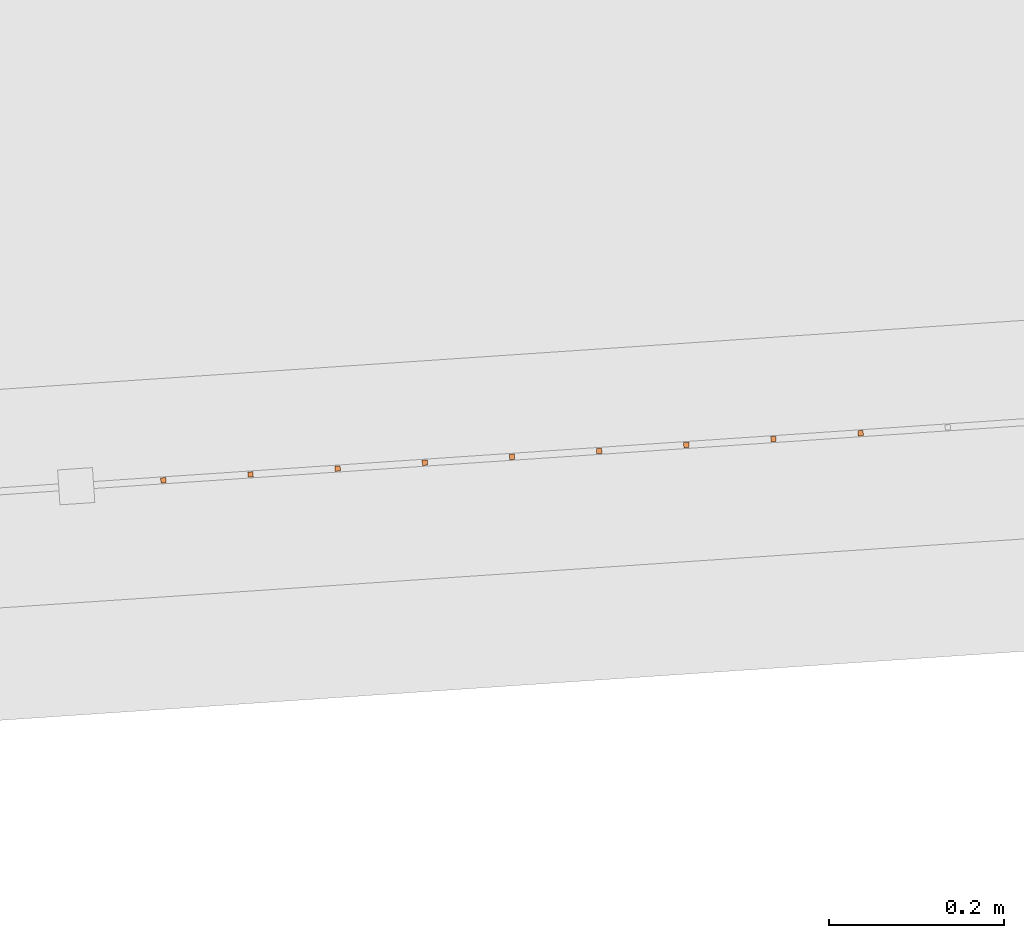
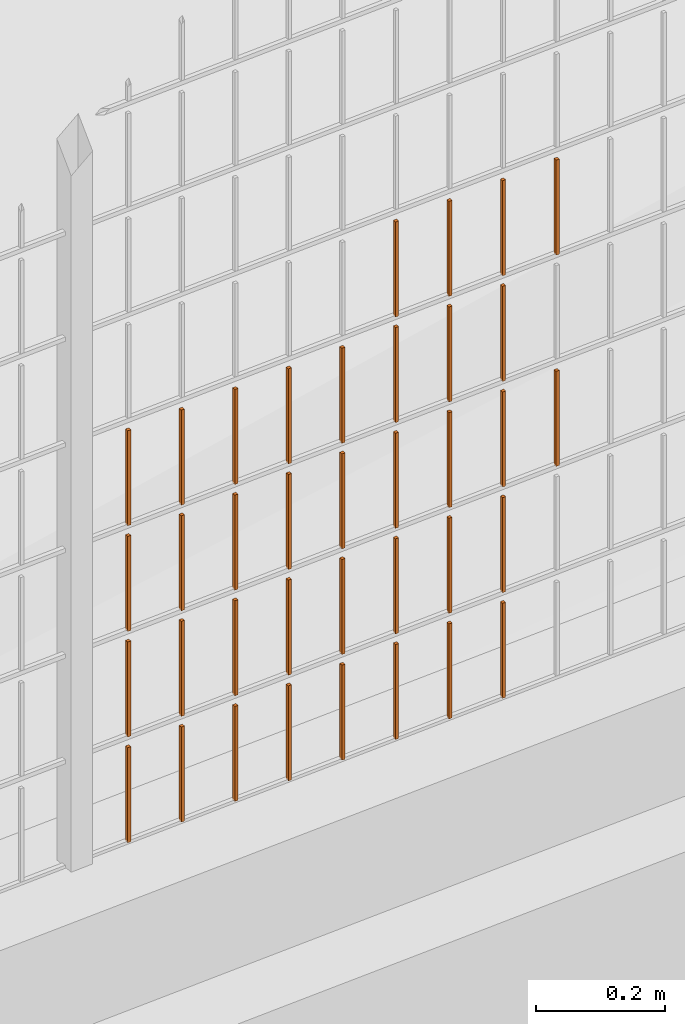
# One storey, part 83 of 1809: 37 proxies, 1 element without a shape of its own.
"""IFC2X3 building model written with IfcOpenShell, lengths in millimetres."""

from ifc_helpers import new_model, entity, si_unit, converted_unit, derived_unit, money_unit, direction, frame, origin_with_axes, place, context, subcontext, project, spatial, faceted_brep, source, transform, mapped, material, type_object, element, aggregate, save


model = new_model("IFC2X3")

# Units and contexts
model_context = context("Model", 3, precision=0.01, world=origin_with_axes(), true_north=direction((0.0, 1.0)))
body_context = subcontext(model_context, "Body", "Model", "MODEL_VIEW")
ifc_project = project(units=[si_unit("LENGTHUNIT", "METRE", prefix="MILLI"), si_unit("AREAUNIT", "SQUARE_METRE"), si_unit("VOLUMEUNIT", "CUBIC_METRE"), converted_unit("PLANEANGLEUNIT", "DEGREE", entity("IfcPlaneAngleMeasure", 0.0174532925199), si_unit("PLANEANGLEUNIT", "RADIAN"), dimensions=[0, 0, 0, 0, 0, 0, 0]), si_unit("SOLIDANGLEUNIT", "STERADIAN"), money_unit("EUR"), converted_unit("TIMEUNIT", "Year", entity("IfcTimeMeasure", 31556926.0), si_unit("TIMEUNIT", "SECOND"), dimensions=[0, 0, 1, 0, 0, 0, 0]), si_unit("MASSUNIT", "GRAM", prefix="KILO"), si_unit("THERMODYNAMICTEMPERATUREUNIT", "DEGREE_CELSIUS"), si_unit("LUMINOUSINTENSITYUNIT", "LUMEN"), si_unit("ENERGYUNIT", "JOULE", prefix="MEGA"), derived_unit("THERMALCONDUCTANCEUNIT", [(si_unit("POWERUNIT", "WATT"), 1), (si_unit("LENGTHUNIT", "METRE"), -1), (si_unit("THERMODYNAMICTEMPERATUREUNIT", "KELVIN"), -1)]), derived_unit("SPECIFICHEATCAPACITYUNIT", [(si_unit("ENERGYUNIT", "JOULE"), 1), (si_unit("MASSUNIT", "GRAM", prefix="KILO"), -1), (si_unit("THERMODYNAMICTEMPERATUREUNIT", "KELVIN"), -1)]), derived_unit("MASSDENSITYUNIT", [(si_unit("MASSUNIT", "GRAM", prefix="KILO"), 1), (si_unit("VOLUMEUNIT", "CUBIC_METRE"), -1)])], contexts=[model_context])

# Site, building, storey
site_placement = place(None, origin_with_axes())
site = spatial("IfcSite", under=ifc_project, at=site_placement, Name="Politse- ja Piirivalveameti ning Päästeameti ühishoone", CompositionType="ELEMENT")
building_placement = place(site_placement, origin_with_axes())
building = spatial("IfcBuilding", under=site, at=building_placement, Name="Politse- ja Piirivalveameti ning Päästeameti ühishoone", CompositionType="ELEMENT")
storey_placement = place(building_placement, origin_with_axes())
storey = spatial("IfcBuildingStorey", under=building, at=storey_placement, Name="Esimene korrus", CompositionType="ELEMENT", Elevation=0.0)

# Proxies
building_element_proxy_type_1 = type_object("IfcBuildingElementProxyType", Name="Railing Type", PredefinedType="NOTDEFINED")
proxy_1_placement = place(storey_placement, frame((89252.001212, -29183.4766571, 203.661247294), z_axis=(0.0, 0.0, 1.0), x_axis=(1.0, 0.0, 0.0)))
proxy_1 = element("IfcBuildingElementProxy", 1, at=proxy_1_placement, inside=storey, type_object=building_element_proxy_type_1, Name="PIIRDEAED")
ifc_material = material(Name="ET-03_Raud")
building_element_proxy_type_2 = type_object("IfcBuildingElementProxyType", Name="IfcBuildingElementProxy", PredefinedType="NOTDEFINED")
shared_shape_1 = source(origin_with_axes(), body_context, "Body", "Brep", [
    faceted_brep([(3.0, 3.0, -0.000752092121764), (-3.0, 3.0, -0.000752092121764), (-3.0, 3.0, 179.99926046), (3.0, 3.0, 179.99926046), (3.0, -3.0, 0.000752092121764), (-3.0, -3.0, 0.000752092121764), (-3.0, -3.0, 180.000764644), (3.0, -3.0, 180.000764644)], [[[0, 1, 2, 3]], [[0, 4, 5, 1]], [[1, 5, 6, 2]], [[3, 2, 6, 7]], [[4, 0, 3, 7]], [[5, 4, 7, 6]]]),
])
proxy_2_placement = place(proxy_1_placement, frame((-101395.642767, -24146.6677772, 801.756841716), z_axis=(0.0, 0.0, 1.0), x_axis=(1.0, 0.0, 0.0)))
proxy_2 = element("IfcBuildingElementProxy", 2, at=proxy_2_placement, type_object=building_element_proxy_type_2, material=ifc_material, Name="BALUSTER - 001", context=body_context, shape_type="MappedRepresentation", body=[
    mapped(shared_shape_1, transform((0.0, 0.0, 0.0), x_axis=(-0.0673926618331, 0.997726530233, 0.0), y_axis=(-0.997726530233, -0.0673926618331, 0.0), z_axis=(0.0, 0.0, 1.0))),
])
shared_shape_2 = source(origin_with_axes(), body_context, "Body", "Brep", [
    faceted_brep([(3.0, 3.0, -0.000752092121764), (-3.0, 3.0, -0.000752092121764), (-3.0, 3.0, 179.99926046), (3.0, 3.0, 179.99926046), (3.0, -3.0, 0.000752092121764), (-3.0, -3.0, 0.000752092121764), (-3.0, -3.0, 180.000764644), (3.0, -3.0, 180.000764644)], [[[0, 1, 2, 3]], [[0, 4, 5, 1]], [[1, 5, 6, 2]], [[3, 2, 6, 7]], [[4, 0, 3, 7]], [[5, 4, 7, 6]]]),
])
proxy_3_placement = place(proxy_1_placement, frame((-101694.960726, -24166.8855757, 201.681632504), z_axis=(0.0, 0.0, 1.0), x_axis=(1.0, 0.0, 0.0)))
proxy_3 = element("IfcBuildingElementProxy", 3, at=proxy_3_placement, type_object=building_element_proxy_type_2, material=ifc_material, Name="BALUSTER - 001", context=body_context, shape_type="MappedRepresentation", body=[
    mapped(shared_shape_2, transform((0.0, 0.0, 0.0), x_axis=(-0.0673926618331, 0.997726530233, 0.0), y_axis=(-0.997726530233, -0.0673926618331, 0.0), z_axis=(0.0, 0.0, 1.0))),
])
shared_shape_3 = source(origin_with_axes(), body_context, "Body", "Brep", [
    faceted_brep([(3.0, 3.0, -0.000752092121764), (-3.0, 3.0, -0.000752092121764), (-3.0, 3.0, 179.99926046), (3.0, 3.0, 179.99926046), (3.0, -3.0, 0.000752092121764), (-3.0, -3.0, 0.000752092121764), (-3.0, -3.0, 180.000764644), (3.0, -3.0, 180.000764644)], [[[0, 1, 2, 3]], [[0, 4, 5, 1]], [[1, 5, 6, 2]], [[3, 2, 6, 7]], [[4, 0, 3, 7]], [[5, 4, 7, 6]]]),
])
proxy_4_placement = place(proxy_1_placement, frame((-101395.642767, -24146.6677772, 201.756841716), z_axis=(0.0, 0.0, 1.0), x_axis=(1.0, 0.0, 0.0)))
proxy_4 = element("IfcBuildingElementProxy", 4, at=proxy_4_placement, type_object=building_element_proxy_type_2, material=ifc_material, Name="BALUSTER - 001", context=body_context, shape_type="MappedRepresentation", body=[
    mapped(shared_shape_3, transform((0.0, 0.0, 0.0), x_axis=(-0.0673926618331, 0.997726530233, 0.0), y_axis=(-0.997726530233, -0.0673926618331, 0.0), z_axis=(0.0, 0.0, 1.0))),
])
proxy_5_placement = place(proxy_1_placement, frame((-101994.278685, -24187.1033743, 201.606423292), z_axis=(0.0, 0.0, 1.0), x_axis=(1.0, 0.0, 0.0)))
proxy_5 = element("IfcBuildingElementProxy", 5, at=proxy_5_placement, type_object=building_element_proxy_type_2, material=ifc_material, Name="BALUSTER - 001", context=body_context, shape_type="MappedRepresentation", body=[
    mapped(shared_shape_3, transform((0.0, 0.0, 0.0), x_axis=(-0.0673926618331, 0.997726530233, 0.0), y_axis=(-0.997726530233, -0.0673926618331, 0.0), z_axis=(0.0, 0.0, 1.0))),
])
proxy_6_placement = place(proxy_1_placement, frame((-101595.188073, -24160.1463095, 401.706702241), z_axis=(0.0, 0.0, 1.0), x_axis=(1.0, 0.0, 0.0)))
proxy_6 = element("IfcBuildingElementProxy", 6, at=proxy_6_placement, type_object=building_element_proxy_type_2, material=ifc_material, Name="BALUSTER - 001", context=body_context, shape_type="MappedRepresentation", body=[
    mapped(shared_shape_3, transform((0.0, 0.0, 0.0), x_axis=(-0.0673926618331, 0.997726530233, 0.0), y_axis=(-0.997726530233, -0.0673926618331, 0.0), z_axis=(0.0, 0.0, 1.0))),
])
proxy_7_placement = place(proxy_1_placement, frame((-101694.960726, -24166.8855757, 401.681632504), z_axis=(0.0, 0.0, 1.0), x_axis=(1.0, 0.0, 0.0)))
proxy_7 = element("IfcBuildingElementProxy", 7, at=proxy_7_placement, type_object=building_element_proxy_type_2, material=ifc_material, Name="BALUSTER - 001", context=body_context, shape_type="MappedRepresentation", body=[
    mapped(shared_shape_3, transform((0.0, 0.0, 0.0), x_axis=(-0.0673926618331, 0.997726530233, 0.0), y_axis=(-0.997726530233, -0.0673926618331, 0.0), z_axis=(0.0, 0.0, 1.0))),
])
proxy_8_placement = place(proxy_1_placement, frame((-101994.278685, -24187.1033743, 401.606423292), z_axis=(0.0, 0.0, 1.0), x_axis=(1.0, 0.0, 0.0)))
proxy_8 = element("IfcBuildingElementProxy", 8, at=proxy_8_placement, type_object=building_element_proxy_type_2, material=ifc_material, Name="BALUSTER - 001", context=body_context, shape_type="MappedRepresentation", body=[
    mapped(shared_shape_3, transform((0.0, 0.0, 0.0), x_axis=(-0.0673926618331, 0.997726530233, 0.0), y_axis=(-0.997726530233, -0.0673926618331, 0.0), z_axis=(0.0, 0.0, 1.0))),
])
proxy_9_placement = place(proxy_1_placement, frame((-101395.642767, -24146.6677772, 601.756841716), z_axis=(0.0, 0.0, 1.0), x_axis=(1.0, 0.0, 0.0)))
proxy_9 = element("IfcBuildingElementProxy", 9, at=proxy_9_placement, type_object=building_element_proxy_type_2, material=ifc_material, Name="BALUSTER - 001", context=body_context, shape_type="MappedRepresentation", body=[
    mapped(shared_shape_3, transform((0.0, 0.0, 0.0), x_axis=(-0.0673926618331, 0.997726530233, 0.0), y_axis=(-0.997726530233, -0.0673926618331, 0.0), z_axis=(0.0, 0.0, 1.0))),
])
proxy_10_placement = place(proxy_1_placement, frame((-101595.188073, -24160.1463095, 601.706702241), z_axis=(0.0, 0.0, 1.0), x_axis=(1.0, 0.0, 0.0)))
proxy_10 = element("IfcBuildingElementProxy", 10, at=proxy_10_placement, type_object=building_element_proxy_type_2, material=ifc_material, Name="BALUSTER - 001", context=body_context, shape_type="MappedRepresentation", body=[
    mapped(shared_shape_3, transform((0.0, 0.0, 0.0), x_axis=(-0.0673926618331, 0.997726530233, 0.0), y_axis=(-0.997726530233, -0.0673926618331, 0.0), z_axis=(0.0, 0.0, 1.0))),
])
proxy_11_placement = place(proxy_1_placement, frame((-101694.960726, -24166.8855757, 601.681632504), z_axis=(0.0, 0.0, 1.0), x_axis=(1.0, 0.0, 0.0)))
proxy_11 = element("IfcBuildingElementProxy", 11, at=proxy_11_placement, type_object=building_element_proxy_type_2, material=ifc_material, Name="BALUSTER - 001", context=body_context, shape_type="MappedRepresentation", body=[
    mapped(shared_shape_3, transform((0.0, 0.0, 0.0), x_axis=(-0.0673926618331, 0.997726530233, 0.0), y_axis=(-0.997726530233, -0.0673926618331, 0.0), z_axis=(0.0, 0.0, 1.0))),
])
proxy_12_placement = place(proxy_1_placement, frame((-101994.278685, -24187.1033743, 601.606423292), z_axis=(0.0, 0.0, 1.0), x_axis=(1.0, 0.0, 0.0)))
proxy_12 = element("IfcBuildingElementProxy", 12, at=proxy_12_placement, type_object=building_element_proxy_type_2, material=ifc_material, Name="BALUSTER - 001", context=body_context, shape_type="MappedRepresentation", body=[
    mapped(shared_shape_3, transform((0.0, 0.0, 0.0), x_axis=(-0.0673926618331, 0.997726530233, 0.0), y_axis=(-0.997726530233, -0.0673926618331, 0.0), z_axis=(0.0, 0.0, 1.0))),
])
shared_shape_4 = source(origin_with_axes(), body_context, "Body", "Brep", [
    faceted_brep([(3.0, 3.0, -0.000752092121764), (-3.0, 3.0, -0.000752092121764), (-3.0, 3.0, 179.99926046), (3.0, 3.0, 179.99926046), (3.0, -3.0, 0.000752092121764), (-3.0, -3.0, 0.000752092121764), (-3.0, -3.0, 180.000764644), (3.0, -3.0, 180.000764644)], [[[0, 1, 2, 3]], [[0, 4, 5, 1]], [[1, 5, 6, 2]], [[3, 2, 6, 7]], [[4, 0, 3, 7]], [[5, 4, 7, 6]]]),
])
proxy_13_placement = place(proxy_1_placement, frame((-101694.960726, -24166.8855757, 1.68163250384), z_axis=(0.0, 0.0, 1.0), x_axis=(1.0, 0.0, 0.0)))
proxy_13 = element("IfcBuildingElementProxy", 13, at=proxy_13_placement, type_object=building_element_proxy_type_2, material=ifc_material, Name="BALUSTER - 001", context=body_context, shape_type="MappedRepresentation", body=[
    mapped(shared_shape_4, transform((0.0, 0.0, 0.0), x_axis=(-0.0673926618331, 0.997726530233, 0.0), y_axis=(-0.997726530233, -0.0673926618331, 0.0), z_axis=(0.0, 0.0, 1.0))),
])
proxy_14_placement = place(proxy_1_placement, frame((-101994.278685, -24187.1033743, 1.60642329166), z_axis=(0.0, 0.0, 1.0), x_axis=(1.0, 0.0, 0.0)))
proxy_14 = element("IfcBuildingElementProxy", 14, at=proxy_14_placement, type_object=building_element_proxy_type_2, material=ifc_material, Name="BALUSTER - 001", context=body_context, shape_type="MappedRepresentation", body=[
    mapped(shared_shape_4, transform((0.0, 0.0, 0.0), x_axis=(-0.0673926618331, 0.997726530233, 0.0), y_axis=(-0.997726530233, -0.0673926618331, 0.0), z_axis=(0.0, 0.0, 1.0))),
])
shared_shape_5 = source(origin_with_axes(), body_context, "Body", "Brep", [
    faceted_brep([(3.0, 3.0, -0.000752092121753), (-3.0, 3.0, -0.000752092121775), (-3.0, 3.0, 179.99926046), (3.0, 3.0, 179.99926046), (3.0, -3.0, 0.000752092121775), (-3.0, -3.0, 0.000752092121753), (-3.0, -3.0, 180.000764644), (3.0, -3.0, 180.000764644)], [[[0, 1, 2, 3]], [[0, 4, 5, 1]], [[1, 5, 6, 2]], [[3, 2, 6, 7]], [[4, 0, 3, 7]], [[5, 4, 7, 6]]]),
])
proxy_15_placement = place(proxy_1_placement, frame((-101894.506032, -24180.3641081, 1.63149302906), z_axis=(0.0, 0.0, 1.0), x_axis=(1.0, 0.0, 0.0)))
proxy_15 = element("IfcBuildingElementProxy", 15, at=proxy_15_placement, type_object=building_element_proxy_type_2, material=ifc_material, Name="BALUSTER - 001", context=body_context, shape_type="MappedRepresentation", body=[
    mapped(shared_shape_5, transform((0.0, 0.0, 0.0), x_axis=(-0.0673926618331, 0.997726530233, 0.0), y_axis=(-0.997726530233, -0.0673926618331, 0.0), z_axis=(0.0, 0.0, 1.0))),
])
shared_shape_6 = source(origin_with_axes(), body_context, "Body", "Brep", [
    faceted_brep([(3.0, 3.0, -0.000752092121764), (-3.0, 3.0, -0.000752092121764), (-3.0, 3.0, 179.99926046), (3.0, 3.0, 179.99926046), (3.0, -3.0, 0.000752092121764), (-3.0, -3.0, 0.000752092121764), (-3.0, -3.0, 180.000764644), (3.0, -3.0, 180.000764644)], [[[0, 1, 2, 3]], [[0, 4, 5, 1]], [[1, 5, 6, 2]], [[3, 2, 6, 7]], [[4, 0, 3, 7]], [[5, 4, 7, 6]]]),
])
proxy_16_placement = place(proxy_1_placement, frame((-101295.870114, -24139.928511, 201.781911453), z_axis=(0.0, 0.0, 1.0), x_axis=(1.0, 0.0, 0.0)))
proxy_16 = element("IfcBuildingElementProxy", 16, at=proxy_16_placement, type_object=building_element_proxy_type_2, material=ifc_material, Name="BALUSTER - 001", context=body_context, shape_type="MappedRepresentation", body=[
    mapped(shared_shape_6, transform((0.0, 0.0, 0.0), x_axis=(-0.0673926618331, 0.997726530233, 0.0), y_axis=(-0.997726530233, -0.0673926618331, 0.0), z_axis=(0.0, 0.0, 1.0))),
])
shared_shape_7 = source(origin_with_axes(), body_context, "Body", "Brep", [
    faceted_brep([(3.0, 3.0, -0.000752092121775), (-3.0, 3.0, -0.000752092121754), (-3.0, 3.0, 179.99926046), (3.0, 3.0, 179.99926046), (3.0, -3.0, 0.000752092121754), (-3.0, -3.0, 0.000752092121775), (-3.0, -3.0, 180.000764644), (3.0, -3.0, 180.000764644)], [[[0, 1, 2, 3]], [[0, 4, 5, 1]], [[1, 5, 6, 2]], [[3, 2, 6, 7]], [[4, 0, 3, 7]], [[5, 4, 7, 6]]]),
])
proxy_17_placement = place(proxy_1_placement, frame((-101794.733379, -24173.6248419, 601.656562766), z_axis=(0.0, 0.0, 1.0), x_axis=(1.0, 0.0, 0.0)))
proxy_17 = element("IfcBuildingElementProxy", 17, at=proxy_17_placement, type_object=building_element_proxy_type_2, material=ifc_material, Name="BALUSTER - 001", context=body_context, shape_type="MappedRepresentation", body=[
    mapped(shared_shape_7, transform((0.0, 0.0, 0.0), x_axis=(-0.0673926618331, 0.997726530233, 0.0), y_axis=(-0.997726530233, -0.0673926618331, 0.0), z_axis=(0.0, 0.0, 1.0))),
])
shared_shape_8 = source(origin_with_axes(), body_context, "Body", "Brep", [
    faceted_brep([(3.0, 3.0, -0.000752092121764), (-3.0, 3.0, -0.000752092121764), (-3.0, 3.0, 179.99926046), (3.0, 3.0, 179.99926046), (3.0, -3.0, 0.000752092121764), (-3.0, -3.0, 0.000752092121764), (-3.0, -3.0, 180.000764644), (3.0, -3.0, 180.000764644)], [[[0, 1, 2, 3]], [[0, 4, 5, 1]], [[1, 5, 6, 2]], [[3, 2, 6, 7]], [[4, 0, 3, 7]], [[5, 4, 7, 6]]]),
])
proxy_18_placement = place(proxy_1_placement, frame((-101295.870114, -24139.928511, 401.781911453), z_axis=(0.0, 0.0, 1.0), x_axis=(1.0, 0.0, 0.0)))
proxy_18 = element("IfcBuildingElementProxy", 18, at=proxy_18_placement, type_object=building_element_proxy_type_2, material=ifc_material, Name="BALUSTER - 001", context=body_context, shape_type="MappedRepresentation", body=[
    mapped(shared_shape_8, transform((0.0, 0.0, 0.0), x_axis=(-0.0673926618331, 0.997726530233, 0.0), y_axis=(-0.997726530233, -0.0673926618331, 0.0), z_axis=(0.0, 0.0, 1.0))),
])
proxy_19_placement = place(proxy_1_placement, frame((-101295.870114, -24139.928511, 601.781911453), z_axis=(0.0, 0.0, 1.0), x_axis=(1.0, 0.0, 0.0)))
proxy_19 = element("IfcBuildingElementProxy", 19, at=proxy_19_placement, type_object=building_element_proxy_type_2, material=ifc_material, Name="BALUSTER - 001", context=body_context, shape_type="MappedRepresentation", body=[
    mapped(shared_shape_8, transform((0.0, 0.0, 0.0), x_axis=(-0.0673926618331, 0.997726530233, 0.0), y_axis=(-0.997726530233, -0.0673926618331, 0.0), z_axis=(0.0, 0.0, 1.0))),
])
shared_shape_9 = source(origin_with_axes(), body_context, "Body", "Brep", [
    faceted_brep([(3.0, 3.0, -0.000752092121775), (-3.0, 3.0, -0.000752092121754), (-3.0, 3.0, 179.99926046), (3.0, 3.0, 179.99926046), (3.0, -3.0, 0.000752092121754), (-3.0, -3.0, 0.000752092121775), (-3.0, -3.0, 180.000764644), (3.0, -3.0, 180.000764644)], [[[0, 1, 2, 3]], [[0, 4, 5, 1]], [[1, 5, 6, 2]], [[3, 2, 6, 7]], [[4, 0, 3, 7]], [[5, 4, 7, 6]]]),
])
proxy_20_placement = place(proxy_1_placement, frame((-101794.733379, -24173.6248419, 401.656562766), z_axis=(0.0, 0.0, 1.0), x_axis=(1.0, 0.0, 0.0)))
proxy_20 = element("IfcBuildingElementProxy", 20, at=proxy_20_placement, type_object=building_element_proxy_type_2, material=ifc_material, Name="BALUSTER - 001", context=body_context, shape_type="MappedRepresentation", body=[
    mapped(shared_shape_9, transform((0.0, 0.0, 0.0), x_axis=(-0.0673926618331, 0.997726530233, 0.0), y_axis=(-0.997726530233, -0.0673926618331, 0.0), z_axis=(0.0, 0.0, 1.0))),
])
shared_shape_10 = source(origin_with_axes(), body_context, "Body", "Brep", [
    faceted_brep([(3.0, 3.0, -0.000752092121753), (-3.0, 3.0, -0.000752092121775), (-3.0, 3.0, 179.99926046), (3.0, 3.0, 179.99926046), (3.0, -3.0, 0.000752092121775), (-3.0, -3.0, 0.000752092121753), (-3.0, -3.0, 180.000764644), (3.0, -3.0, 180.000764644)], [[[0, 1, 2, 3]], [[0, 4, 5, 1]], [[1, 5, 6, 2]], [[3, 2, 6, 7]], [[4, 0, 3, 7]], [[5, 4, 7, 6]]]),
])
proxy_21_placement = place(proxy_1_placement, frame((-101894.506032, -24180.3641081, 201.631493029), z_axis=(0.0, 0.0, 1.0), x_axis=(1.0, 0.0, 0.0)))
proxy_21 = element("IfcBuildingElementProxy", 21, at=proxy_21_placement, type_object=building_element_proxy_type_2, material=ifc_material, Name="BALUSTER - 001", context=body_context, shape_type="MappedRepresentation", body=[
    mapped(shared_shape_10, transform((0.0, 0.0, 0.0), x_axis=(-0.0673926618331, 0.997726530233, 0.0), y_axis=(-0.997726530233, -0.0673926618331, 0.0), z_axis=(0.0, 0.0, 1.0))),
])
shared_shape_11 = source(origin_with_axes(), body_context, "Body", "Brep", [
    faceted_brep([(3.0, 3.0, -0.000752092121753), (-3.0, 3.0, -0.000752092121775), (-3.0, 3.0, 179.99926046), (3.0, 3.0, 179.99926046), (3.0, -3.0, 0.000752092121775), (-3.0, -3.0, 0.000752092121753), (-3.0, -3.0, 180.000764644), (3.0, -3.0, 180.000764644)], [[[0, 1, 2, 3]], [[0, 4, 5, 1]], [[1, 5, 6, 2]], [[3, 2, 6, 7]], [[4, 0, 3, 7]], [[5, 4, 7, 6]]]),
])
proxy_22_placement = place(proxy_1_placement, frame((-101894.506032, -24180.3641081, 401.631493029), z_axis=(0.0, 0.0, 1.0), x_axis=(1.0, 0.0, 0.0)))
proxy_22 = element("IfcBuildingElementProxy", 22, at=proxy_22_placement, type_object=building_element_proxy_type_2, material=ifc_material, Name="BALUSTER - 001", context=body_context, shape_type="MappedRepresentation", body=[
    mapped(shared_shape_11, transform((0.0, 0.0, 0.0), x_axis=(-0.0673926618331, 0.997726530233, 0.0), y_axis=(-0.997726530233, -0.0673926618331, 0.0), z_axis=(0.0, 0.0, 1.0))),
])
proxy_23_placement = place(proxy_1_placement, frame((-101894.506032, -24180.3641081, 601.631493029), z_axis=(0.0, 0.0, 1.0), x_axis=(1.0, 0.0, 0.0)))
proxy_23 = element("IfcBuildingElementProxy", 23, at=proxy_23_placement, type_object=building_element_proxy_type_2, material=ifc_material, Name="BALUSTER - 001", context=body_context, shape_type="MappedRepresentation", body=[
    mapped(shared_shape_11, transform((0.0, 0.0, 0.0), x_axis=(-0.0673926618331, 0.997726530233, 0.0), y_axis=(-0.997726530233, -0.0673926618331, 0.0), z_axis=(0.0, 0.0, 1.0))),
])
shared_shape_12 = source(origin_with_axes(), body_context, "Body", "Brep", [
    faceted_brep([(3.0, 3.0, -0.000752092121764), (-3.0, 3.0, -0.000752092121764), (-3.0, 3.0, 179.99926046), (3.0, 3.0, 179.99926046), (3.0, -3.0, 0.000752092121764), (-3.0, -3.0, 0.000752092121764), (-3.0, -3.0, 180.000764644), (3.0, -3.0, 180.000764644)], [[[0, 1, 2, 3]], [[0, 4, 5, 1]], [[1, 5, 6, 2]], [[3, 2, 6, 7]], [[4, 0, 3, 7]], [[5, 4, 7, 6]]]),
])
proxy_24_placement = place(proxy_1_placement, frame((-101295.870114, -24139.928511, 801.781911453), z_axis=(0.0, 0.0, 1.0), x_axis=(1.0, 0.0, 0.0)))
proxy_24 = element("IfcBuildingElementProxy", 24, at=proxy_24_placement, type_object=building_element_proxy_type_2, material=ifc_material, Name="BALUSTER - 001", context=body_context, shape_type="MappedRepresentation", body=[
    mapped(shared_shape_12, transform((0.0, 0.0, 0.0), x_axis=(-0.0673926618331, 0.997726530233, 0.0), y_axis=(-0.997726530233, -0.0673926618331, 0.0), z_axis=(0.0, 0.0, 1.0))),
])
shared_shape_13 = source(origin_with_axes(), body_context, "Body", "Brep", [
    faceted_brep([(3.0, 3.0, -0.000752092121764), (-3.0, 3.0, -0.000752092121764), (-3.0, 3.0, 179.99926046), (3.0, 3.0, 179.99926046), (3.0, -3.0, 0.000752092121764), (-3.0, -3.0, 0.000752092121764), (-3.0, -3.0, 180.000764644), (3.0, -3.0, 180.000764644)], [[[0, 1, 2, 3]], [[0, 4, 5, 1]], [[1, 5, 6, 2]], [[3, 2, 6, 7]], [[4, 0, 3, 7]], [[5, 4, 7, 6]]]),
])
proxy_25_placement = place(proxy_1_placement, frame((-101595.188073, -24160.1463095, 201.706702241), z_axis=(0.0, 0.0, 1.0), x_axis=(1.0, 0.0, 0.0)))
proxy_25 = element("IfcBuildingElementProxy", 25, at=proxy_25_placement, type_object=building_element_proxy_type_2, material=ifc_material, Name="BALUSTER - 001", context=body_context, shape_type="MappedRepresentation", body=[
    mapped(shared_shape_13, transform((0.0, 0.0, 0.0), x_axis=(-0.0673926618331, 0.997726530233, 0.0), y_axis=(-0.997726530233, -0.0673926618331, 0.0), z_axis=(0.0, 0.0, 1.0))),
])
proxy_26_placement = place(proxy_1_placement, frame((-101395.642767, -24146.6677772, 401.756841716), z_axis=(0.0, 0.0, 1.0), x_axis=(1.0, 0.0, 0.0)))
proxy_26 = element("IfcBuildingElementProxy", 26, at=proxy_26_placement, type_object=building_element_proxy_type_2, material=ifc_material, Name="BALUSTER - 001", context=body_context, shape_type="MappedRepresentation", body=[
    mapped(shared_shape_13, transform((0.0, 0.0, 0.0), x_axis=(-0.0673926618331, 0.997726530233, 0.0), y_axis=(-0.997726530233, -0.0673926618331, 0.0), z_axis=(0.0, 0.0, 1.0))),
])
shared_shape_14 = source(origin_with_axes(), body_context, "Body", "Brep", [
    faceted_brep([(3.0, 3.0, -0.000752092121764), (-3.0, 3.0, -0.000752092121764), (-3.0, 3.0, 179.99926046), (3.0, 3.0, 179.99926046), (3.0, -3.0, 0.000752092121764), (-3.0, -3.0, 0.000752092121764), (-3.0, -3.0, 180.000764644), (3.0, -3.0, 180.000764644)], [[[0, 1, 2, 3]], [[0, 4, 5, 1]], [[1, 5, 6, 2]], [[3, 2, 6, 7]], [[4, 0, 3, 7]], [[5, 4, 7, 6]]]),
])
proxy_27_placement = place(proxy_1_placement, frame((-101595.188073, -24160.1463095, 1.70670224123), z_axis=(0.0, 0.0, 1.0), x_axis=(1.0, 0.0, 0.0)))
proxy_27 = element("IfcBuildingElementProxy", 27, at=proxy_27_placement, type_object=building_element_proxy_type_2, material=ifc_material, Name="BALUSTER - 001", context=body_context, shape_type="MappedRepresentation", body=[
    mapped(shared_shape_14, transform((0.0, 0.0, 0.0), x_axis=(-0.0673926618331, 0.997726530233, 0.0), y_axis=(-0.997726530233, -0.0673926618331, 0.0), z_axis=(0.0, 0.0, 1.0))),
])
shared_shape_15 = source(origin_with_axes(), body_context, "Body", "Brep", [
    faceted_brep([(3.0, 3.0, -0.000752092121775), (-3.0, 3.0, -0.000752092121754), (-3.0, 3.0, 179.99926046), (3.0, 3.0, 179.99926046), (3.0, -3.0, 0.000752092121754), (-3.0, -3.0, 0.000752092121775), (-3.0, -3.0, 180.000764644), (3.0, -3.0, 180.000764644)], [[[0, 1, 2, 3]], [[0, 4, 5, 1]], [[1, 5, 6, 2]], [[3, 2, 6, 7]], [[4, 0, 3, 7]], [[5, 4, 7, 6]]]),
])
proxy_28_placement = place(proxy_1_placement, frame((-101794.733379, -24173.6248419, 1.65656276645), z_axis=(0.0, 0.0, 1.0), x_axis=(1.0, 0.0, 0.0)))
proxy_28 = element("IfcBuildingElementProxy", 28, at=proxy_28_placement, type_object=building_element_proxy_type_2, material=ifc_material, Name="BALUSTER - 001", context=body_context, shape_type="MappedRepresentation", body=[
    mapped(shared_shape_15, transform((0.0, 0.0, 0.0), x_axis=(-0.0673926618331, 0.997726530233, 0.0), y_axis=(-0.997726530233, -0.0673926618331, 0.0), z_axis=(0.0, 0.0, 1.0))),
])
shared_shape_16 = source(origin_with_axes(), body_context, "Body", "Brep", [
    faceted_brep([(3.0, 3.0, -0.000752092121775), (-3.0, 3.0, -0.000752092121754), (-3.0, 3.0, 179.99926046), (3.0, 3.0, 179.99926046), (3.0, -3.0, 0.000752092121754), (-3.0, -3.0, 0.000752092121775), (-3.0, -3.0, 180.000764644), (3.0, -3.0, 180.000764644)], [[[0, 1, 2, 3]], [[0, 4, 5, 1]], [[1, 5, 6, 2]], [[3, 2, 6, 7]], [[4, 0, 3, 7]], [[5, 4, 7, 6]]]),
])
proxy_29_placement = place(proxy_1_placement, frame((-101794.733379, -24173.6248419, 201.656562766), z_axis=(0.0, 0.0, 1.0), x_axis=(1.0, 0.0, 0.0)))
proxy_29 = element("IfcBuildingElementProxy", 29, at=proxy_29_placement, type_object=building_element_proxy_type_2, material=ifc_material, Name="BALUSTER - 001", context=body_context, shape_type="MappedRepresentation", body=[
    mapped(shared_shape_16, transform((0.0, 0.0, 0.0), x_axis=(-0.0673926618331, 0.997726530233, 0.0), y_axis=(-0.997726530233, -0.0673926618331, 0.0), z_axis=(0.0, 0.0, 1.0))),
])
shared_shape_17 = source(origin_with_axes(), body_context, "Body", "Brep", [
    faceted_brep([(3.0, 3.0, -0.000752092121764), (-3.0, 3.0, -0.000752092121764), (-3.0, 3.0, 179.99926046), (3.0, 3.0, 179.99926046), (3.0, -3.0, 0.000752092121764), (-3.0, -3.0, 0.000752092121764), (-3.0, -3.0, 180.000764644), (3.0, -3.0, 180.000764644)], [[[0, 1, 2, 3]], [[0, 4, 5, 1]], [[1, 5, 6, 2]], [[3, 2, 6, 7]], [[4, 0, 3, 7]], [[5, 4, 7, 6]]]),
])
proxy_30_placement = place(proxy_1_placement, frame((-101495.41542, -24153.4070433, 601.731771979), z_axis=(0.0, 0.0, 1.0), x_axis=(1.0, 0.0, 0.0)))
proxy_30 = element("IfcBuildingElementProxy", 30, at=proxy_30_placement, type_object=building_element_proxy_type_2, material=ifc_material, Name="BALUSTER - 001", context=body_context, shape_type="MappedRepresentation", body=[
    mapped(shared_shape_17, transform((0.0, 0.0, 0.0), x_axis=(-0.0673926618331, 0.997726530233, 0.0), y_axis=(-0.997726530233, -0.0673926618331, 0.0), z_axis=(0.0, 0.0, 1.0))),
])
shared_shape_18 = source(origin_with_axes(), body_context, "Body", "Brep", [
    faceted_brep([(3.0, 3.0, -0.000752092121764), (-3.0, 3.0, -0.000752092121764), (-3.0, 3.0, 179.99926046), (3.0, 3.0, 179.99926046), (3.0, -3.0, 0.000752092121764), (-3.0, -3.0, 0.000752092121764), (-3.0, -3.0, 180.000764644), (3.0, -3.0, 180.000764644)], [[[0, 1, 2, 3]], [[0, 4, 5, 1]], [[1, 5, 6, 2]], [[3, 2, 6, 7]], [[4, 0, 3, 7]], [[5, 4, 7, 6]]]),
])
proxy_31_placement = place(proxy_1_placement, frame((-101495.41542, -24153.4070433, 201.731771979), z_axis=(0.0, 0.0, 1.0), x_axis=(1.0, 0.0, 0.0)))
proxy_31 = element("IfcBuildingElementProxy", 31, at=proxy_31_placement, type_object=building_element_proxy_type_2, material=ifc_material, Name="BALUSTER - 001", context=body_context, shape_type="MappedRepresentation", body=[
    mapped(shared_shape_18, transform((0.0, 0.0, 0.0), x_axis=(-0.0673926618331, 0.997726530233, 0.0), y_axis=(-0.997726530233, -0.0673926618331, 0.0), z_axis=(0.0, 0.0, 1.0))),
])
proxy_32_placement = place(proxy_1_placement, frame((-101495.41542, -24153.4070433, 401.731771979), z_axis=(0.0, 0.0, 1.0), x_axis=(1.0, 0.0, 0.0)))
proxy_32 = element("IfcBuildingElementProxy", 32, at=proxy_32_placement, type_object=building_element_proxy_type_2, material=ifc_material, Name="BALUSTER - 001", context=body_context, shape_type="MappedRepresentation", body=[
    mapped(shared_shape_18, transform((0.0, 0.0, 0.0), x_axis=(-0.0673926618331, 0.997726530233, 0.0), y_axis=(-0.997726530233, -0.0673926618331, 0.0), z_axis=(0.0, 0.0, 1.0))),
])
shared_shape_19 = source(origin_with_axes(), body_context, "Body", "Brep", [
    faceted_brep([(3.0, 3.0, -0.000752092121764), (-3.0, 3.0, -0.000752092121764), (-3.0, 3.0, 179.99926046), (3.0, 3.0, 179.99926046), (3.0, -3.0, 0.000752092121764), (-3.0, -3.0, 0.000752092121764), (-3.0, -3.0, 180.000764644), (3.0, -3.0, 180.000764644)], [[[0, 1, 2, 3]], [[0, 4, 5, 1]], [[1, 5, 6, 2]], [[3, 2, 6, 7]], [[4, 0, 3, 7]], [[5, 4, 7, 6]]]),
])
proxy_33_placement = place(proxy_1_placement, frame((-101495.41542, -24153.4070433, 801.731771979), z_axis=(0.0, 0.0, 1.0), x_axis=(1.0, 0.0, 0.0)))
proxy_33 = element("IfcBuildingElementProxy", 33, at=proxy_33_placement, type_object=building_element_proxy_type_2, material=ifc_material, Name="BALUSTER - 001", context=body_context, shape_type="MappedRepresentation", body=[
    mapped(shared_shape_19, transform((0.0, 0.0, 0.0), x_axis=(-0.0673926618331, 0.997726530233, 0.0), y_axis=(-0.997726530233, -0.0673926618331, 0.0), z_axis=(0.0, 0.0, 1.0))),
])
shared_shape_20 = source(origin_with_axes(), body_context, "Body", "Brep", [
    faceted_brep([(3.0, 3.0, -0.000752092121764), (-3.0, 3.0, -0.000752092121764), (-3.0, 3.0, 179.99926046), (3.0, 3.0, 179.99926046), (3.0, -3.0, 0.000752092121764), (-3.0, -3.0, 0.000752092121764), (-3.0, -3.0, 180.000764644), (3.0, -3.0, 180.000764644)], [[[0, 1, 2, 3]], [[0, 4, 5, 1]], [[1, 5, 6, 2]], [[3, 2, 6, 7]], [[4, 0, 3, 7]], [[5, 4, 7, 6]]]),
])
proxy_34_placement = place(proxy_1_placement, frame((-101395.642767, -24146.6677772, 1.75684171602), z_axis=(0.0, 0.0, 1.0), x_axis=(1.0, 0.0, 0.0)))
proxy_34 = element("IfcBuildingElementProxy", 34, at=proxy_34_placement, type_object=building_element_proxy_type_2, material=ifc_material, Name="BALUSTER - 001", context=body_context, shape_type="MappedRepresentation", body=[
    mapped(shared_shape_20, transform((0.0, 0.0, 0.0), x_axis=(-0.0673926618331, 0.997726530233, 0.0), y_axis=(-0.997726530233, -0.0673926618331, 0.0), z_axis=(0.0, 0.0, 1.0))),
])
shared_shape_21 = source(origin_with_axes(), body_context, "Body", "Brep", [
    faceted_brep([(3.0, 3.0, -0.000752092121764), (-3.0, 3.0, -0.000752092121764), (-3.0, 3.0, 179.99926046), (3.0, 3.0, 179.99926046), (3.0, -3.0, 0.000752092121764), (-3.0, -3.0, 0.000752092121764), (-3.0, -3.0, 180.000764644), (3.0, -3.0, 180.000764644)], [[[0, 1, 2, 3]], [[0, 4, 5, 1]], [[1, 5, 6, 2]], [[3, 2, 6, 7]], [[4, 0, 3, 7]], [[5, 4, 7, 6]]]),
])
proxy_35_placement = place(proxy_1_placement, frame((-101295.870114, -24139.928511, 1.78191145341), z_axis=(0.0, 0.0, 1.0), x_axis=(1.0, 0.0, 0.0)))
proxy_35 = element("IfcBuildingElementProxy", 35, at=proxy_35_placement, type_object=building_element_proxy_type_2, material=ifc_material, Name="BALUSTER - 001", context=body_context, shape_type="MappedRepresentation", body=[
    mapped(shared_shape_21, transform((0.0, 0.0, 0.0), x_axis=(-0.0673926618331, 0.997726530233, 0.0), y_axis=(-0.997726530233, -0.0673926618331, 0.0), z_axis=(0.0, 0.0, 1.0))),
])
shared_shape_22 = source(origin_with_axes(), body_context, "Body", "Brep", [
    faceted_brep([(3.0, 3.0, -0.000752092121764), (-3.0, 3.0, -0.000752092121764), (-3.0, 3.0, 179.99926046), (3.0, 3.0, 179.99926046), (3.0, -3.0, 0.000752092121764), (-3.0, -3.0, 0.000752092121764), (-3.0, -3.0, 180.000764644), (3.0, -3.0, 180.000764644)], [[[0, 1, 2, 3]], [[0, 4, 5, 1]], [[1, 5, 6, 2]], [[3, 2, 6, 7]], [[4, 0, 3, 7]], [[5, 4, 7, 6]]]),
])
proxy_36_placement = place(proxy_1_placement, frame((-101495.41542, -24153.4070433, 1.73177197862), z_axis=(0.0, 0.0, 1.0), x_axis=(1.0, 0.0, 0.0)))
proxy_36 = element("IfcBuildingElementProxy", 36, at=proxy_36_placement, type_object=building_element_proxy_type_2, material=ifc_material, Name="BALUSTER - 001", context=body_context, shape_type="MappedRepresentation", body=[
    mapped(shared_shape_22, transform((0.0, 0.0, 0.0), x_axis=(-0.0673926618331, 0.997726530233, 0.0), y_axis=(-0.997726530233, -0.0673926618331, 0.0), z_axis=(0.0, 0.0, 1.0))),
])
shared_shape_23 = source(origin_with_axes(), body_context, "Body", "Brep", [
    faceted_brep([(3.0, 3.0, -0.000752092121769), (-3.0, 3.0, -0.00075209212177), (-3.0, 3.0, 179.99926046), (3.0, 3.0, 179.99926046), (3.0, -3.0, 0.00075209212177), (-3.0, -3.0, 0.000752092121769), (-3.0, -3.0, 180.000764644), (3.0, -3.0, 180.000764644)], [[[0, 1, 2, 3]], [[0, 4, 5, 1]], [[1, 5, 6, 2]], [[3, 2, 6, 7]], [[4, 0, 3, 7]], [[5, 4, 7, 6]]]),
])
proxy_37_placement = place(proxy_1_placement, frame((-101196.097461, -24133.1892448, 401.806981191), z_axis=(0.0, 0.0, 1.0), x_axis=(1.0, 0.0, 0.0)))
proxy_37 = element("IfcBuildingElementProxy", 37, at=proxy_37_placement, type_object=building_element_proxy_type_2, material=ifc_material, Name="BALUSTER - 001", context=body_context, shape_type="MappedRepresentation", body=[
    mapped(shared_shape_23, transform((0.0, 0.0, 0.0), x_axis=(-0.0673926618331, 0.997726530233, 0.0), y_axis=(-0.997726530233, -0.0673926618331, 0.0), z_axis=(0.0, 0.0, 1.0))),
])
proxy_38_placement = place(proxy_1_placement, frame((-101196.097461, -24133.1892448, 801.806981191), z_axis=(0.0, 0.0, 1.0), x_axis=(1.0, 0.0, 0.0)))
proxy_38 = element("IfcBuildingElementProxy", 38, at=proxy_38_placement, type_object=building_element_proxy_type_2, material=ifc_material, Name="BALUSTER - 001", context=body_context, shape_type="MappedRepresentation", body=[
    mapped(shared_shape_23, transform((0.0, 0.0, 0.0), x_axis=(-0.0673926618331, 0.997726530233, 0.0), y_axis=(-0.997726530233, -0.0673926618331, 0.0), z_axis=(0.0, 0.0, 1.0))),
])
aggregate(proxy_1, [proxy_35, proxy_34, proxy_36, proxy_27, proxy_13, proxy_28, proxy_15, proxy_14, proxy_16, proxy_4, proxy_31, proxy_25, proxy_3, proxy_29, proxy_21, proxy_5, proxy_37, proxy_18, proxy_26, proxy_32, proxy_6, proxy_7, proxy_20, proxy_22, proxy_8, proxy_19, proxy_9, proxy_30, proxy_10, proxy_11, proxy_17, proxy_23, proxy_12, proxy_38, proxy_24, proxy_2, proxy_33])

save(model, "model.ifc")
